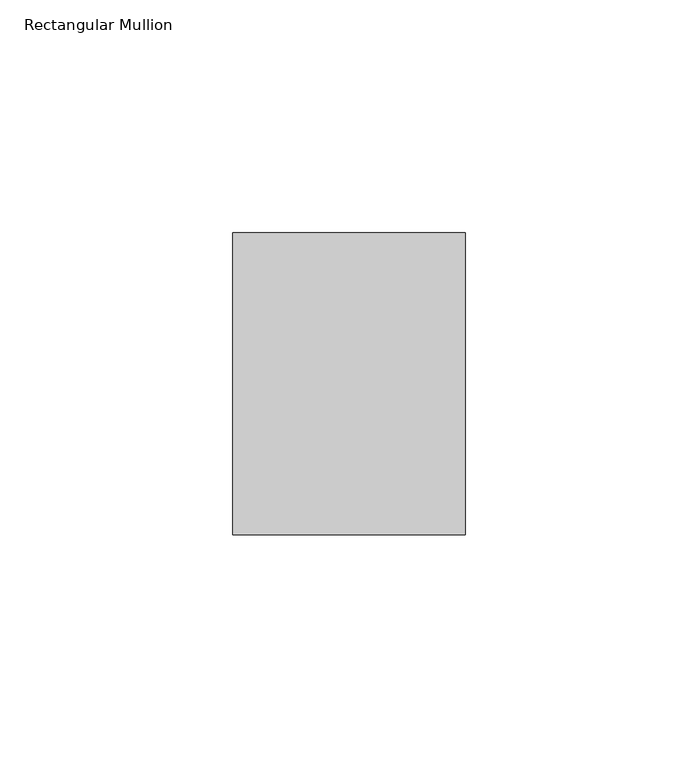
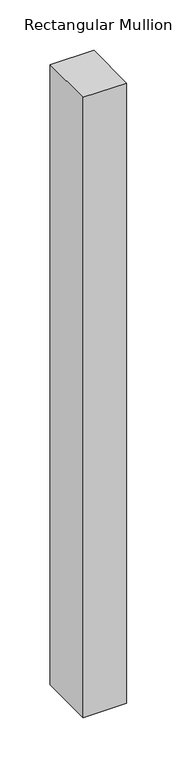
"""IFC4 building model written with IfcOpenShell, lengths in millimetres: member geometry, Rectangular Mullion : MCGRORY - Forster Fuego Light - 60 Min Rated - Side Mullion A."""

from ifc_helpers import new_model, si_unit, frame, origin, place, context, project, spatial, polyline, outline, extrude, source, transform, mapped, element, save


def rectangular_mullion_61379318(model_context):
    return source(origin(), model_context, "Body", "SweptSolid", [
        extrude(outline(polyline([(-49.9781277, -32.485783), (-49.9781277, 32.485783), (0.0, 32.485783), (0.0, -32.485783), (-49.9781277, -32.485783)])), frame((0.0, 0.0, -750.0218723), z_axis=(0.0, 0.0, 1.0), x_axis=(1.0, 0.0, 0.0)), (0.0, 0.0, 1.0), 750.0218723),
    ])


if __name__ == "__main__":
    model = new_model("IFC4")
    model_context = context("Model", 3, world=origin())
    ifc_project = project(units=[si_unit("LENGTHUNIT", "METRE", prefix="MILLI")], contexts=[model_context])
    site = spatial("IfcSite", under=ifc_project)
    building = spatial("IfcBuilding", under=site)
    placement = place(None, origin())
    rectangular_mullion_shape = rectangular_mullion_61379318(model_context)
    element("IfcMember", 1, ObjectType="Rectangular Mullion : MCGRORY - Forster Fuego Light - 60 Min Rated - Side Mullion A", at=placement, inside=building, context=model_context, shape_type="MappedRepresentation", body=[
        mapped(rectangular_mullion_shape, transform((0.0, 0.0, 0.0), x_axis=(1.0, 0.0, 0.0), y_axis=(0.0, 1.0, 0.0), z_axis=(0.0, 0.0, 1.0))),
    ])
    save(model, "model.ifc")
